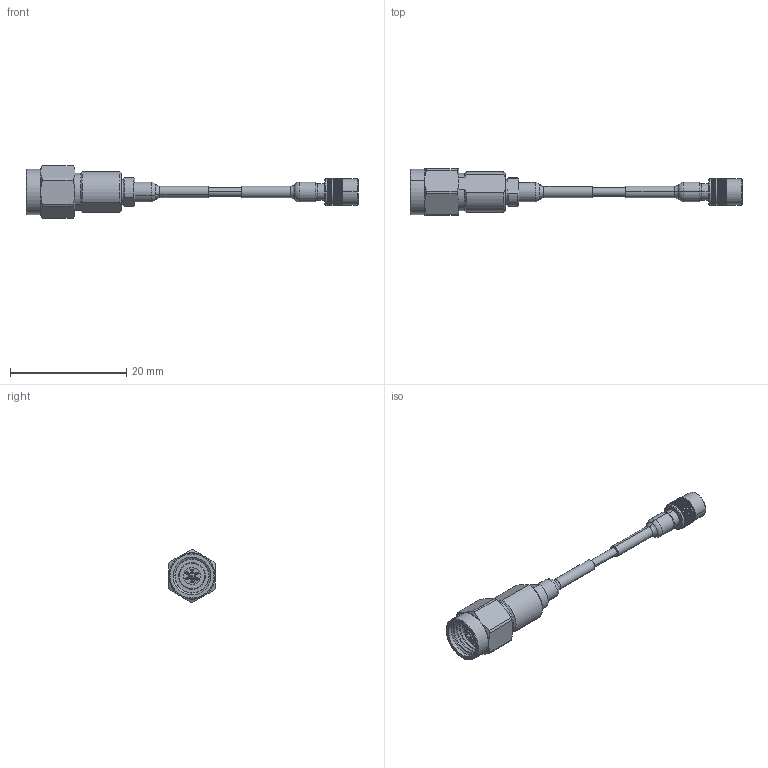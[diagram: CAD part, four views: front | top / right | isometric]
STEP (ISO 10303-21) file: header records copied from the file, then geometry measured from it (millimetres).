
FILE_DESCRIPTION (( 'STEP AP203' ), '1' );
FILE_NAME ('1K6S10474200.STEP', '2016-08-25T14:28:17', ( '' ), ( '' ), 'SwSTEP 2.0', 'SolidWorks 2014', '' );
FILE_SCHEMA (( 'CONFIG_CONTROL_DESIGN' ));
Length unit declared in the file: inch
Products named in the file (24): C6489-4; 4K69781010; 102-1161-700000A; P176TL-1CC_CORE GD CABLE END; TLL26-5047_Temp-flex 29 AWG COAX #047SC-29 01; 107-0005-900000B; 7211916111; 2200-18; 105-0064-400000A; 1K6S10474200; C6294-2; 61-10013-44471A; C6395-2; 101-2068-121470A; 101-0075-440000C; C6398-2_AS MACHINED; 101-2069-440470A; 101-2081-440000A; C6461-1; 101-2070-121470A; 101-2082-440470A; C6462-4; 102-1150-700000A; 103-1425-226470A
Assembly tree (24 placements, depth 4):
  1K6S10474200
    4K69781010
      61-10013-44471A
        101-0075-440000C
        101-2081-440000A
        101-2082-440470A
        103-1425-226470A
        102-1161-700000A
        107-0005-900000B
        105-0064-400000A
      101-2068-121470A
      101-2069-440470A
      101-2070-121470A
      102-1150-700000A
    TLL26-5047_Temp-flex 29 AWG COAX #047SC-29 01
    P176TL-1CC_CORE GD CABLE END
      2200-18
      C6294-2
      C6395-2
      C6398-2_AS MACHINED
      C6461-1
      C6462-4
      C6489-4
    7211916111  x2
Bounding box: 57.12 x 8.05 x 9 mm (x, y, z)
Volume: 735.3 mm3; surface area: 2787.1 mm2
Topology: 22 solids, 22 shells, 903 faces, 2259 edges, 1433 vertices
Faces by surface type: plane 333, cylinder 329, cone 198, torus 36, bspline 7
Entity records: 30445 total; most frequent: CARTESIAN_POINT 6193, DIRECTION 4703, ORIENTED_EDGE 4432, EDGE_CURVE 2216, AXIS2_PLACEMENT_3D 1778, VERTEX_POINT 1413, VECTOR 1147, LINE 1147
